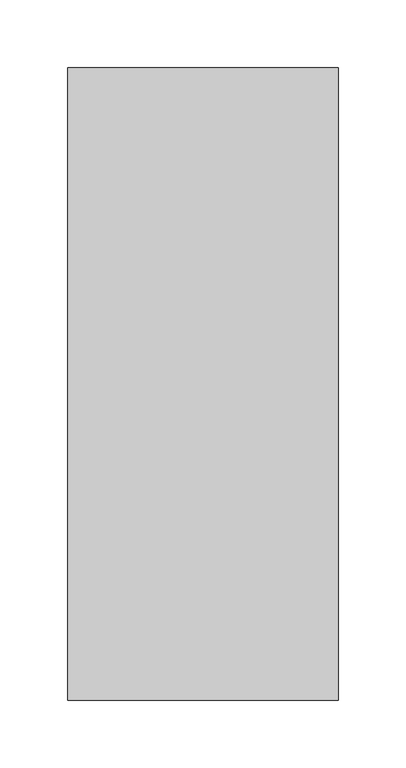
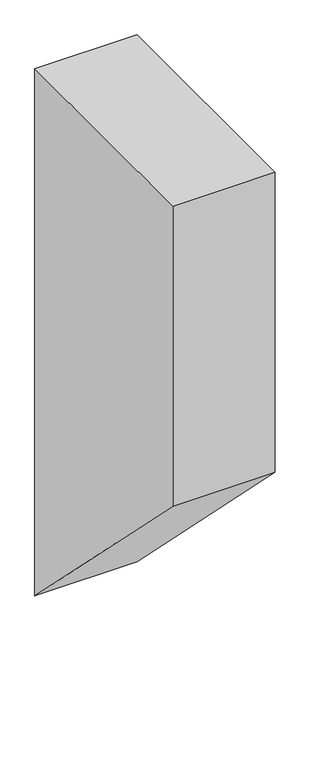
"""IFC4 building model written with IfcOpenShell, lengths in millimetres: beam geometry, appoggiTravi8 : appoggiTravi."""

from ifc_helpers import new_model, si_unit, frame, origin, place, context, project, spatial, polyline, outline, extrude, source, transform, mapped, element, save


def beam_9dfcf295(model_context):
    return source(origin(), model_context, "Body", "SweptSolid", [
        extrude(outline(polyline([(29829.1284342, -620.0), (29829.1284342, 0.0), (30296.6410149, 0.0), (30296.6410149, -1089.0), (29829.1284342, -620.0)])), frame((-5341.2749632, 0.0, 0.0), z_axis=(1.0, 0.0, 0.0), x_axis=(0.0, 1.0, 0.0)), (0.0, 0.0, 1.0), 200.0),
    ])


if __name__ == "__main__":
    model = new_model("IFC4")
    model_context = context("Model", 3, world=origin())
    ifc_project = project(units=[si_unit("LENGTHUNIT", "METRE", prefix="MILLI")], contexts=[model_context])
    site = spatial("IfcSite", under=ifc_project)
    building = spatial("IfcBuilding", under=site)
    placement = place(None, origin())
    beam_shape = beam_9dfcf295(model_context)
    element("IfcBeam", 1, ObjectType="appoggiTravi8 : appoggiTravi", at=placement, inside=building, context=model_context, shape_type="MappedRepresentation", body=[
        mapped(beam_shape, transform((0.0, 0.0, 0.0), x_axis=(1.0, 0.0, 0.0), y_axis=(0.0, 1.0, 0.0), z_axis=(0.0, 0.0, 1.0))),
    ])
    save(model, "model.ifc")
